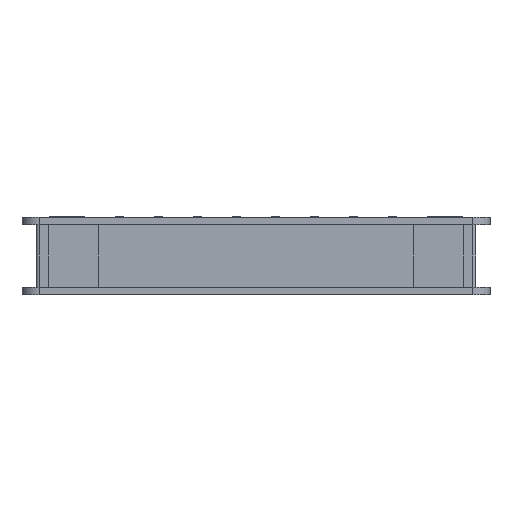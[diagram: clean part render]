
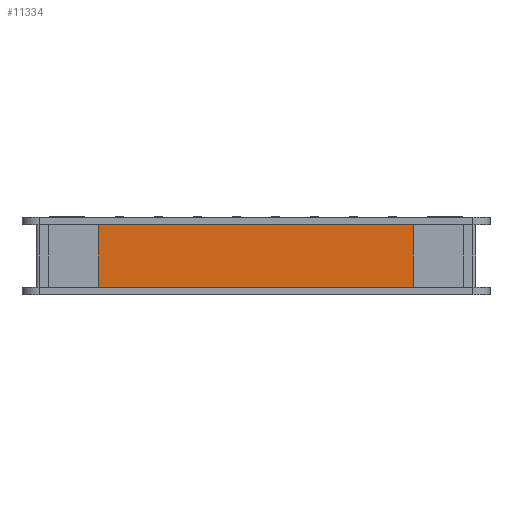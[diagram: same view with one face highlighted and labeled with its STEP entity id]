
A CAD part, left-side view. The second image highlights one B-rep face of the part: STEP entity #11334.
In plain terms, the highlighted planar face has unit normal (-1, 0, 0).
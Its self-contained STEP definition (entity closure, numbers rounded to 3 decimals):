
#131 = VECTOR ( 'NONE', #1003, 1000. ) ;
#626 = DIRECTION ( 'NONE',  ( 0., 0., -1. ) ) ;
#1003 = DIRECTION ( 'NONE',  ( 0., 1., 0. ) ) ;
#1113 = LINE ( 'NONE', #8697, #1485 ) ;
#1128 = VERTEX_POINT ( 'NONE', #10816 ) ;
#1169 = ORIENTED_EDGE ( 'NONE', *, *, #1612, .F. ) ;
#1207 = ORIENTED_EDGE ( 'NONE', *, *, #10678, .F. ) ;
#1485 = VECTOR ( 'NONE', #3964, 1000. ) ;
#1612 = EDGE_CURVE ( 'NONE', #7672, #4066, #1113, .T. ) ;
#1736 = LINE ( 'NONE', #5511, #6301 ) ;
#1805 = PLANE ( 'NONE',  #2747 ) ;
#1851 = EDGE_CURVE ( 'NONE', #12162, #7672, #2839, .T. ) ;
#2747 = AXIS2_PLACEMENT_3D ( 'NONE', #6571, #9422, #5573 ) ;
#2839 = LINE ( 'NONE', #9353, #3272 ) ;
#3272 = VECTOR ( 'NONE', #12216, 1000. ) ;
#3415 = CARTESIAN_POINT ( 'NONE',  ( -134.868, 159.517, 2.5 ) ) ;
#3964 = DIRECTION ( 'NONE',  ( 0., -1., 0. ) ) ;
#4066 = VERTEX_POINT ( 'NONE', #9583 ) ;
#4406 = CARTESIAN_POINT ( 'NONE',  ( -134.868, 159.517, 42.5 ) ) ;
#4844 = CARTESIAN_POINT ( 'NONE',  ( -134.868, 159.517, 2.5 ) ) ;
#4847 = ORIENTED_EDGE ( 'NONE', *, *, #1851, .F. ) ;
#5167 = EDGE_CURVE ( 'NONE', #1128, #12162, #11312, .T. ) ;
#5511 = CARTESIAN_POINT ( 'NONE',  ( -134.868, -106.483, 42.5 ) ) ;
#5573 = DIRECTION ( 'NONE',  ( 0., 1., 0. ) ) ;
#6301 = VECTOR ( 'NONE', #626, 1000. ) ;
#6571 = CARTESIAN_POINT ( 'NONE',  ( -134.868, 26.517, 22.5 ) ) ;
#7672 = VERTEX_POINT ( 'NONE', #4406 ) ;
#7927 = ORIENTED_EDGE ( 'NONE', *, *, #5167, .F. ) ;
#8697 = CARTESIAN_POINT ( 'NONE',  ( -134.868, 159.517, 42.5 ) ) ;
#9309 = FACE_OUTER_BOUND ( 'NONE', #9936, .T. ) ;
#9353 = CARTESIAN_POINT ( 'NONE',  ( -134.868, 159.517, 42.5 ) ) ;
#9422 = DIRECTION ( 'NONE',  ( -1., 0., 0. ) ) ;
#9583 = CARTESIAN_POINT ( 'NONE',  ( -134.868, -106.483, 42.5 ) ) ;
#9936 = EDGE_LOOP ( 'NONE', ( #1207, #1169, #4847, #7927 ) ) ;
#10678 = EDGE_CURVE ( 'NONE', #4066, #1128, #1736, .T. ) ;
#10816 = CARTESIAN_POINT ( 'NONE',  ( -134.868, -106.483, 2.5 ) ) ;
#11312 = LINE ( 'NONE', #4844, #131 ) ;
#11334 = ADVANCED_FACE ( 'NONE', ( #9309 ), #1805, .T. ) ;
#12162 = VERTEX_POINT ( 'NONE', #3415 ) ;
#12216 = DIRECTION ( 'NONE',  ( 0., 0., 1. ) ) ;
